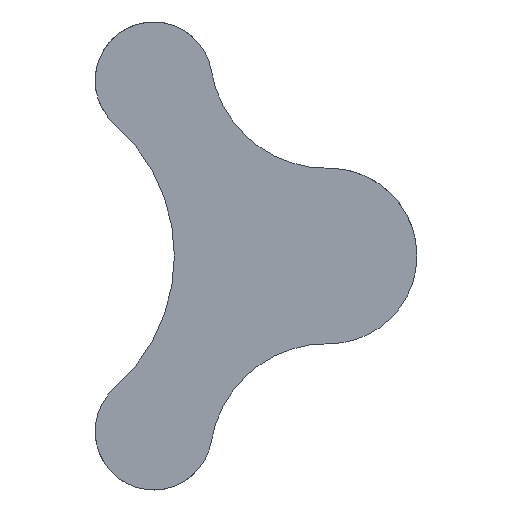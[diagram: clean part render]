
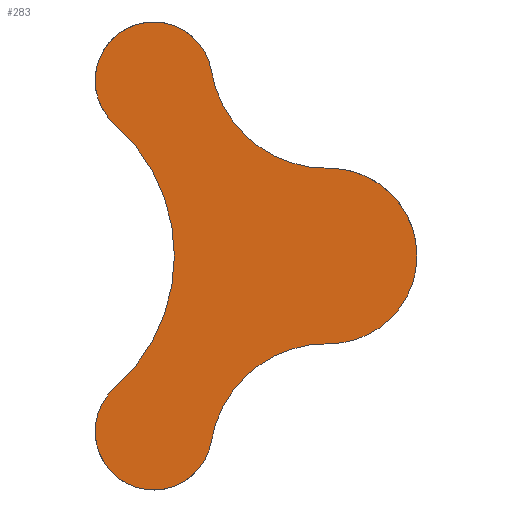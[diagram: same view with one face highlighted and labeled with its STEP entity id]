
A CAD part, front view. The second image highlights one B-rep face of the part: STEP entity #283.
In plain terms, the highlighted planar face has unit normal (0, -1, 0).
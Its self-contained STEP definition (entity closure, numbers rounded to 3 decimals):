
#25=PLANE('',#347);
#42=FACE_OUTER_BOUND('',#62,.T.);
#62=EDGE_LOOP('',(#251,#252,#253,#254,#255,#256,#257));
#107=CIRCLE('',#334,30.);
#108=CIRCLE('',#335,30.);
#109=CIRCLE('',#337,40.);
#110=CIRCLE('',#339,20.);
#111=CIRCLE('',#341,60.);
#112=CIRCLE('',#343,20.);
#113=CIRCLE('',#345,40.);
#134=VERTEX_POINT('',#504);
#135=VERTEX_POINT('',#506);
#136=VERTEX_POINT('',#509);
#137=VERTEX_POINT('',#513);
#138=VERTEX_POINT('',#518);
#139=VERTEX_POINT('',#522);
#140=VERTEX_POINT('',#527);
#165=EDGE_CURVE('',#134,#135,#107,.T.);
#168=EDGE_CURVE('',#136,#134,#108,.T.);
#169=EDGE_CURVE('',#137,#136,#109,.T.);
#173=EDGE_CURVE('',#138,#137,#110,.T.);
#174=EDGE_CURVE('',#139,#138,#111,.T.);
#178=EDGE_CURVE('',#140,#139,#112,.T.);
#179=EDGE_CURVE('',#135,#140,#113,.T.);
#251=ORIENTED_EDGE('',*,*,#179,.F.);
#252=ORIENTED_EDGE('',*,*,#165,.F.);
#253=ORIENTED_EDGE('',*,*,#168,.F.);
#254=ORIENTED_EDGE('',*,*,#169,.F.);
#255=ORIENTED_EDGE('',*,*,#173,.F.);
#256=ORIENTED_EDGE('',*,*,#174,.F.);
#257=ORIENTED_EDGE('',*,*,#178,.F.);
#283=ADVANCED_FACE('',(#42),#25,.F.);
#334=AXIS2_PLACEMENT_3D('',#507,#414,#415);
#335=AXIS2_PLACEMENT_3D('',#511,#418,#419);
#337=AXIS2_PLACEMENT_3D('',#514,#422,#423);
#339=AXIS2_PLACEMENT_3D('',#520,#429,#430);
#341=AXIS2_PLACEMENT_3D('',#523,#433,#434);
#343=AXIS2_PLACEMENT_3D('',#529,#440,#441);
#345=AXIS2_PLACEMENT_3D('',#531,#444,#445);
#347=AXIS2_PLACEMENT_3D('',#533,#448,#449);
#414=DIRECTION('center_axis',(0.,1.,0.));
#415=DIRECTION('ref_axis',(-1.,0.,0.));
#418=DIRECTION('center_axis',(0.,1.,0.));
#419=DIRECTION('ref_axis',(-1.,0.,0.));
#422=DIRECTION('center_axis',(0.,-1.,0.));
#423=DIRECTION('ref_axis',(-0.012,0.,1.));
#429=DIRECTION('center_axis',(0.,1.,0.));
#430=DIRECTION('ref_axis',(-1.,0.,0.));
#433=DIRECTION('center_axis',(0.,-1.,0.));
#434=DIRECTION('ref_axis',(-0.661,0.,-0.75));
#440=DIRECTION('center_axis',(0.,1.,0.));
#441=DIRECTION('ref_axis',(-1.,0.,0.));
#444=DIRECTION('center_axis',(0.,-1.,0.));
#445=DIRECTION('ref_axis',(0.986,0.,-0.167));
#448=DIRECTION('center_axis',(0.,1.,0.));
#449=DIRECTION('ref_axis',(0.,0.,1.));
#504=CARTESIAN_POINT('',(30.,0.,0.));
#506=CARTESIAN_POINT('',(-0.359,0.,-29.998));
#507=CARTESIAN_POINT('Origin',(0.,0.,0.));
#509=CARTESIAN_POINT('',(-0.359,0.,29.998));
#511=CARTESIAN_POINT('Origin',(0.,0.,0.));
#513=CARTESIAN_POINT('',(-40.279,0.,63.332));
#514=CARTESIAN_POINT('Origin',(-0.838,0.,69.995));
#518=CARTESIAN_POINT('',(-73.229,0.,45.));
#520=CARTESIAN_POINT('Origin',(-60.,0.,60.));
#522=CARTESIAN_POINT('',(-73.229,0.,-45.));
#523=CARTESIAN_POINT('Origin',(-112.915,0.,0.));
#527=CARTESIAN_POINT('',(-40.279,0.,-63.332));
#529=CARTESIAN_POINT('Origin',(-60.,0.,-60.));
#531=CARTESIAN_POINT('Origin',(-0.838,0.,-69.995));
#533=CARTESIAN_POINT('Origin',(-25.,0.,0.));
